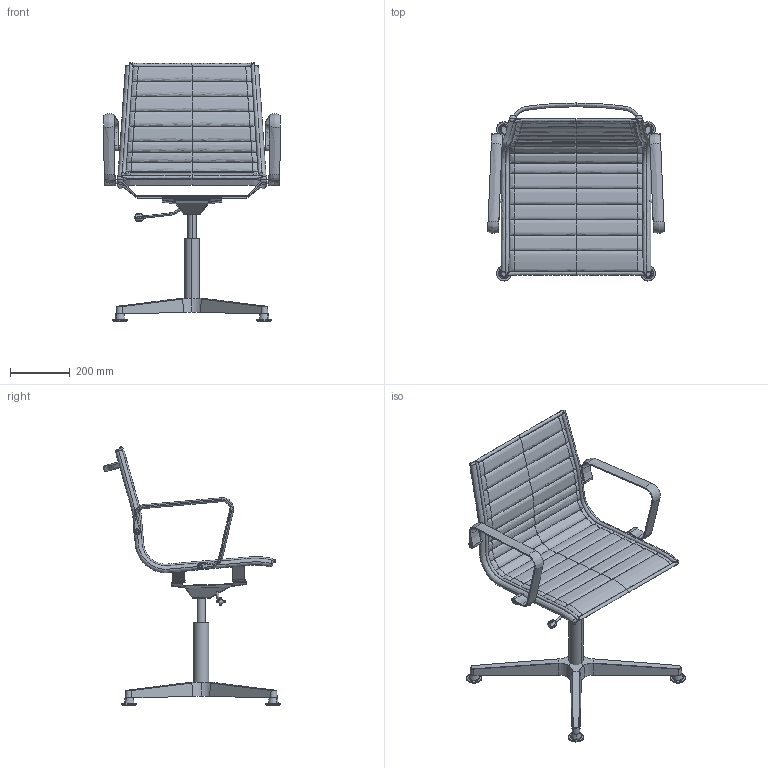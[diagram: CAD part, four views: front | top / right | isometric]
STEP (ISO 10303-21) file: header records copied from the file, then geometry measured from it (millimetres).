
FILE_DESCRIPTION(/* description */ (''),/* implementation_level */ '2;1');
FILE_NAME(/* name */ 'FLY713~1',/* time_stamp */ '2017-10-19T14:51:43+02:00',/* author */ (''),/* organization */ (''),/* preprocessor_version */ 'ST-DEVELOPER v15',/* originating_system */ '',/* authorisation */ '');
FILE_SCHEMA (('CONFIG_CONTROL_DESIGN'));
Length unit declared in the file: millimetre
Products named in the file (1): Document
Bounding box: 589.59 x 592.29 x 861.82 mm (x, y, z)
Volume: 1771048 mm3; surface area: 1544579.1 mm2
Topology: 11 solids, 30 shells, 447 faces, 1079 edges, 659 vertices
Faces by surface type: bspline 356, plane 91
Entity records: 27731 total; most frequent: CARTESIAN_POINT 21480, ORIENTED_EDGE 1994, EDGE_CURVE 1060, VERTEX_POINT 653, B_SPLINE_CURVE_WITH_KNOTS 603, EDGE_LOOP 459, ADVANCED_FACE 447, FACE_OUTER_BOUND 447
